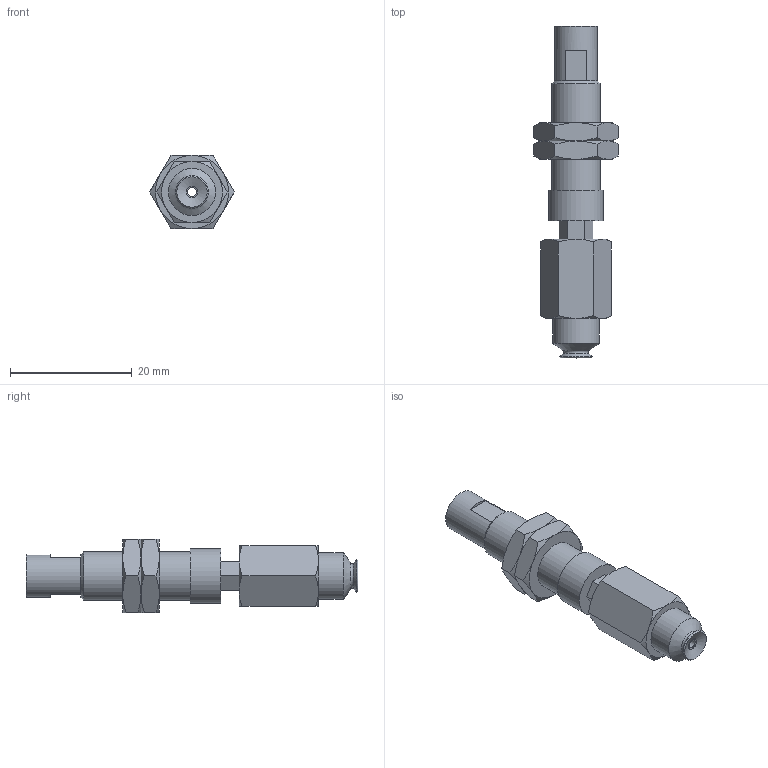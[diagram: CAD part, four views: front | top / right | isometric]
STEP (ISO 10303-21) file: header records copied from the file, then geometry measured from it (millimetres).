
FILE_DESCRIPTION(('STEP AP203'),'1');
FILE_NAME('.stp','2025-08-27T02:47:22',(' '),(' '),'Spatial InterOp 3D',' ',' ');
FILE_SCHEMA(('CONFIG_CONTROL_DESIGN'));
Length unit declared in the file: millimetre
Products named in the file (6): BNABPFTH-5A-3-※; ADAPTER; NAPATH-10A-3--M; Nut-5A-3-h; NAPFTH-5A-3-FBODY; BPFG-5A-※
Assembly tree (6 placements, depth 2):
  BNABPFTH-5A-3-※
    ADAPTER
    NAPATH-10A-3--M
    Nut-5A-3-h  x2
    NAPFTH-5A-3-FBODY
    BPFG-5A-※
Bounding box: 13.86 x 54.5 x 12 mm (x, y, z)
Volume: 3254.1 mm3; surface area: 3792.5 mm2
Topology: 6 solids, 6 shells, 122 faces, 264 edges, 160 vertices
Faces by surface type: plane 52, cone 46, cylinder 14, torus 9, bspline 1
Full cylindrical faces by diameter (mm): 1.4 x1, 2 x2, 4 x2, 4.134 x1, 6 x2, 7 x1, 7.188 x2, 7.7 x1, 8 x1, 9 x1
Entity records: 2983 total; most frequent: CARTESIAN_POINT 721, DIRECTION 408, ORIENTED_EDGE 352, EDGE_CURVE 176, AXIS2_PLACEMENT_3D 175, EDGE_LOOP 146, VERTEX_POINT 124, FACE_OUTER_BOUND 122
